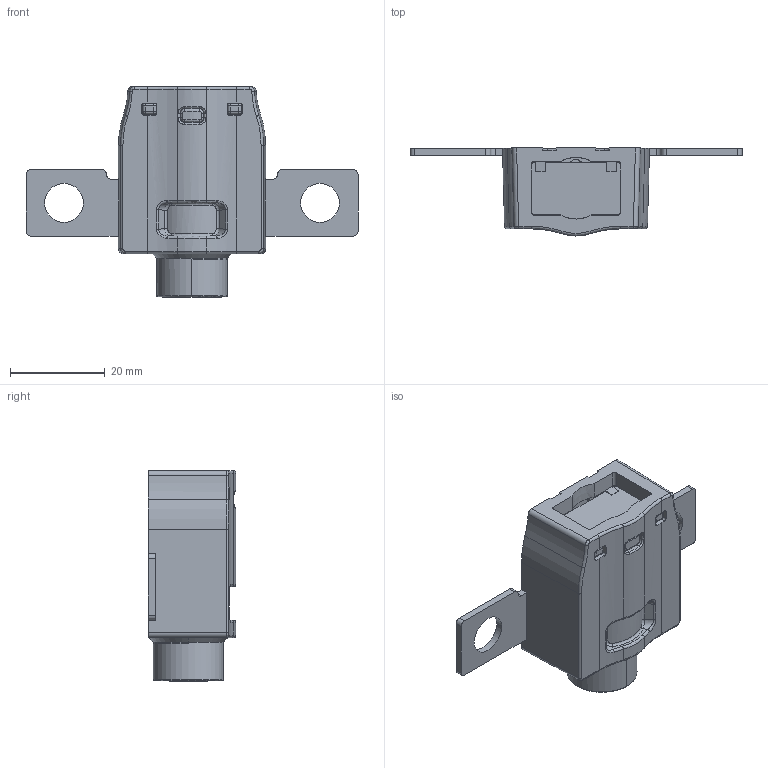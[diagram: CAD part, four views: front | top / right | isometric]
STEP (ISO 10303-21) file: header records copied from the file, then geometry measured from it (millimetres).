
FILE_DESCRIPTION((''),'2;1');
FILE_NAME('PHW','2024-01-24T',('1029438'),(''),'PRO/ENGINEER BY PARAMETRIC TECHNOLOGY CORPORATION, 2012310','PRO/ENGINEER BY PARAMETRIC TECHNOLOGY CORPORATION, 2012310','');
FILE_SCHEMA(('CONFIG_CONTROL_DESIGN','SHAPE_APPEARANCE_LAYERS_GROUPS'));
Length unit declared in the file: millimetre
Products named in the file (1): PHW
Bounding box: 70 x 18.5 x 44.42 mm (x, y, z)
Surface area: 7195 mm2 (no closed solid volume)
Topology: 0 solids, 15 shells, 279 faces, 1006 edges, 726 vertices
Faces by surface type: plane 107, cylinder 86, bspline 32, cone 26, torus 16, sphere 12
Entity records: 13506 total; most frequent: CARTESIAN_POINT 4628, ORIENTED_EDGE 1593, DIRECTION 1498, EDGE_CURVE 1002, VERTEX_POINT 726, VECTOR 502, LINE 502, AXIS2_PLACEMENT_3D 498
